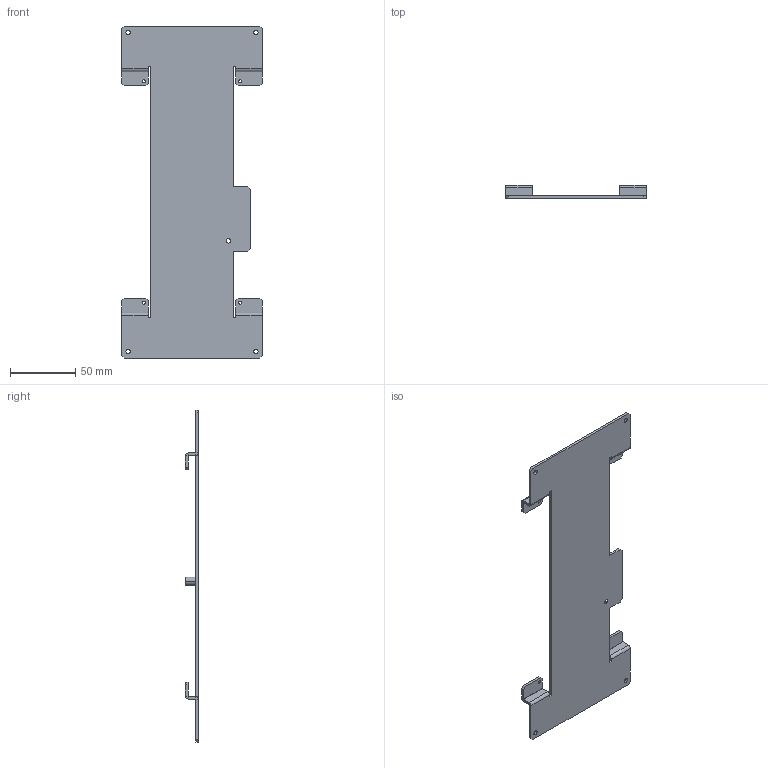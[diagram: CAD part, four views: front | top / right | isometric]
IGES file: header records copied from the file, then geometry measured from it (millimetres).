
Start section: SolidWorks IGES file using analytic representation for surfaces
Global section: file name: C:\3D\d-25_outline.IGS; native system: SolidWorks 2020; preprocessor: SolidWorks 2020; author: a000000; date: 231107.135202; units: millimetre
Bounding box: 108 x 10 x 255 mm (x, y, z)
Volume: 42655.6 mm3; surface area: 44865.4 mm2
Topology: 1 solids, 1 shells, 253 faces, 663 edges, 417 vertices
Faces by surface type: plane 174, revolution 46, bspline 33
